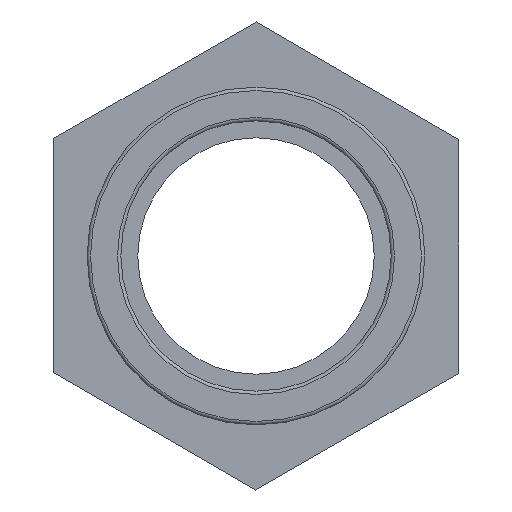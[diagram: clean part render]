
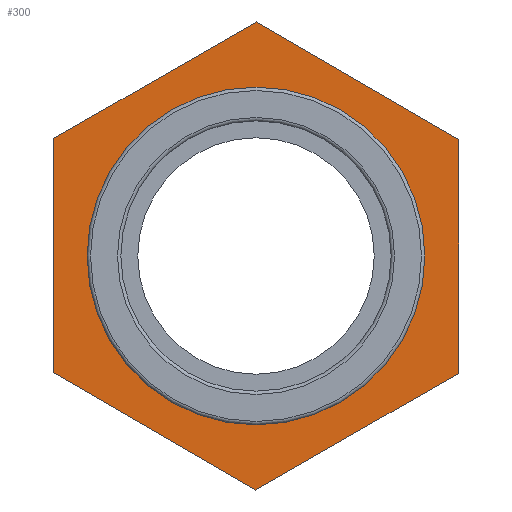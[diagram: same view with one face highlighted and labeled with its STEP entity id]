
A CAD part, left-side view. The second image highlights one B-rep face of the part: STEP entity #300.
In plain terms, the highlighted planar face has unit normal (-1, 0, 0).
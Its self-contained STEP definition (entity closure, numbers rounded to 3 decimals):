
#15=LINE('',#466,#33);
#19=LINE('',#474,#37);
#22=LINE('',#480,#40);
#25=LINE('',#487,#43);
#29=LINE('',#494,#47);
#31=LINE('',#497,#49);
#33=VECTOR('',#386,17.321);
#37=VECTOR('',#392,17.321);
#40=VECTOR('',#397,17.321);
#43=VECTOR('',#402,17.321);
#47=VECTOR('',#408,17.321);
#49=VECTOR('',#412,17.321);
#67=PLANE('',#337);
#82=FACE_BOUND('',#139,.T.);
#103=FACE_OUTER_BOUND('',#138,.T.);
#138=EDGE_LOOP('',(#269,#270,#271,#272,#273,#274));
#139=EDGE_LOOP('',(#275));
#151=CIRCLE('',#324,12.5);
#165=VERTEX_POINT('',#461);
#166=VERTEX_POINT('',#464);
#167=VERTEX_POINT('',#465);
#170=VERTEX_POINT('',#473);
#172=VERTEX_POINT('',#479);
#174=VERTEX_POINT('',#485);
#175=VERTEX_POINT('',#486);
#191=EDGE_CURVE('',#165,#165,#151,.T.);
#192=EDGE_CURVE('',#166,#167,#15,.T.);
#196=EDGE_CURVE('',#167,#170,#19,.T.);
#199=EDGE_CURVE('',#170,#172,#22,.T.);
#202=EDGE_CURVE('',#174,#175,#25,.T.);
#206=EDGE_CURVE('',#175,#166,#29,.T.);
#208=EDGE_CURVE('',#172,#174,#31,.T.);
#269=ORIENTED_EDGE('',*,*,#206,.F.);
#270=ORIENTED_EDGE('',*,*,#202,.F.);
#271=ORIENTED_EDGE('',*,*,#208,.F.);
#272=ORIENTED_EDGE('',*,*,#199,.F.);
#273=ORIENTED_EDGE('',*,*,#196,.F.);
#274=ORIENTED_EDGE('',*,*,#192,.F.);
#275=ORIENTED_EDGE('',*,*,#191,.F.);
#300=ADVANCED_FACE('',(#103,#82),#67,.T.);
#324=AXIS2_PLACEMENT_3D('',#462,#382,#383);
#337=AXIS2_PLACEMENT_3D('',#507,#426,#427);
#382=DIRECTION('center_axis',(-1.,0.,0.));
#383=DIRECTION('ref_axis',(0.,0.,1.));
#386=DIRECTION('',(0.,0.003,-1.));
#392=DIRECTION('',(0.,0.867,-0.498));
#397=DIRECTION('',(0.,0.865,0.502));
#402=DIRECTION('',(0.,-0.867,0.498));
#408=DIRECTION('',(0.,-0.865,-0.502));
#412=DIRECTION('',(0.,-0.003,1.));
#426=DIRECTION('center_axis',(-1.,0.,0.));
#427=DIRECTION('ref_axis',(0.,0.,1.));
#461=CARTESIAN_POINT('',(-4.,-12.5,0.));
#462=CARTESIAN_POINT('Origin',(-4.,0.,0.));
#464=CARTESIAN_POINT('',(-4.,-15.024,8.619));
#465=CARTESIAN_POINT('',(-4.,-14.976,-8.701));
#466=CARTESIAN_POINT('',(-4.,-14.988,-4.371));
#473=CARTESIAN_POINT('',(-4.,0.048,-17.32));
#474=CARTESIAN_POINT('',(-4.,-3.708,-15.166));
#479=CARTESIAN_POINT('',(-4.,15.024,-8.619));
#480=CARTESIAN_POINT('',(-4.,11.28,-10.794));
#485=CARTESIAN_POINT('',(-4.,14.976,8.701));
#486=CARTESIAN_POINT('',(-4.,-0.048,17.32));
#487=CARTESIAN_POINT('',(-4.,3.708,15.166));
#494=CARTESIAN_POINT('',(-4.,-11.28,10.794));
#497=CARTESIAN_POINT('',(-4.,15.,0.041));
#507=CARTESIAN_POINT('Origin',(-4.,-12.5,0.));
